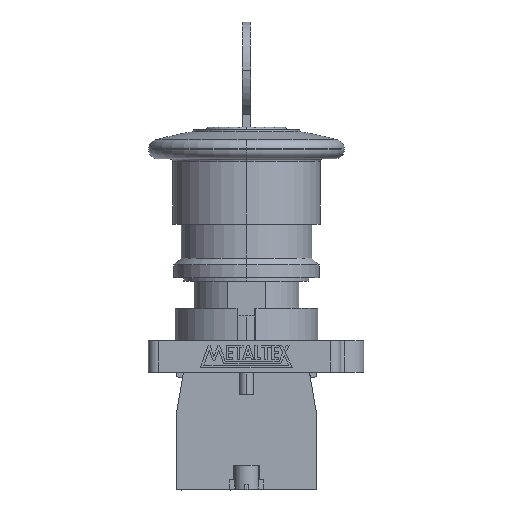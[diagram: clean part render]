
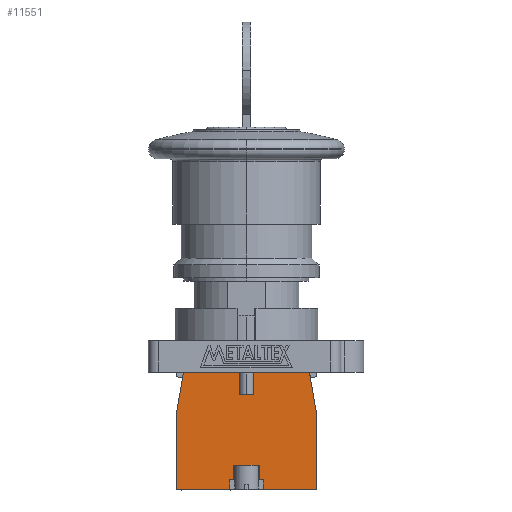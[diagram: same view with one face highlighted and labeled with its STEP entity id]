
A CAD part, top view. The second image highlights one B-rep face of the part: STEP entity #11551.
In plain terms, the highlighted planar face has unit normal (0, 0, 1).
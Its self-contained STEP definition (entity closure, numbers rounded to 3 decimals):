
#629 = VERTEX_POINT ( 'NONE', #4671 ) ;
#630 = VERTEX_POINT ( 'NONE', #4670 ) ;
#631 = VERTEX_POINT ( 'NONE', #4669 ) ;
#632 = VERTEX_POINT ( 'NONE', #4668 ) ;
#685 = VERTEX_POINT ( 'NONE', #4740 ) ;
#686 = VERTEX_POINT ( 'NONE', #4739 ) ;
#689 = VERTEX_POINT ( 'NONE', #4741 ) ;
#1391 = ORIENTED_EDGE ( 'NONE', *, *, #10989, .T. ) ;
#1526 = VERTEX_POINT ( 'NONE', #4795 ) ;
#1548 = ORIENTED_EDGE ( 'NONE', *, *, #12040, .T. ) ;
#1549 = ORIENTED_EDGE ( 'NONE', *, *, #11972, .T. ) ;
#1550 = ORIENTED_EDGE ( 'NONE', *, *, #11917, .T. ) ;
#1551 = ORIENTED_EDGE ( 'NONE', *, *, #11178, .T. ) ;
#1552 = ORIENTED_EDGE ( 'NONE', *, *, #11181, .T. ) ;
#1553 = ORIENTED_EDGE ( 'NONE', *, *, #11955, .F. ) ;
#1554 = ORIENTED_EDGE ( 'NONE', *, *, #11180, .T. ) ;
#1555 = ORIENTED_EDGE ( 'NONE', *, *, #11173, .T. ) ;
#1556 = ORIENTED_EDGE ( 'NONE', *, *, #11177, .F. ) ;
#1557 = ORIENTED_EDGE ( 'NONE', *, *, #11174, .F. ) ;
#1559 = ORIENTED_EDGE ( 'NONE', *, *, #11176, .F. ) ;
#1560 = ORIENTED_EDGE ( 'NONE', *, *, #11182, .T. ) ;
#1561 = ORIENTED_EDGE ( 'NONE', *, *, #11921, .T. ) ;
#1562 = ORIENTED_EDGE ( 'NONE', *, *, #11172, .T. ) ;
#1563 = ORIENTED_EDGE ( 'NONE', *, *, #11826, .T. ) ;
#1564 = ORIENTED_EDGE ( 'NONE', *, *, #12037, .T. ) ;
#1604 = EDGE_LOOP ( 'NONE', ( #1560, #1550, #1391, #1549, #1548, #1552, #1554, #1551, #1553, #1556, #1555, #1557, #1564, #1562, #1563, #1561, #1559, #1615 ) ) ;
#1615 = ORIENTED_EDGE ( 'NONE', *, *, #11965, .T. ) ;
#1750 = VERTEX_POINT ( 'NONE', #4794 ) ;
#1756 = VERTEX_POINT ( 'NONE', #4778 ) ;
#1759 = VERTEX_POINT ( 'NONE', #4765 ) ;
#1764 = VERTEX_POINT ( 'NONE', #4790 ) ;
#2129 = VERTEX_POINT ( 'NONE', #4179 ) ;
#2166 = VERTEX_POINT ( 'NONE', #4140 ) ;
#2389 = VERTEX_POINT ( 'NONE', #4080 ) ;
#2394 = VERTEX_POINT ( 'NONE', #4078 ) ;
#2399 = VERTEX_POINT ( 'NONE', #4070 ) ;
#2453 = VERTEX_POINT ( 'NONE', #4545 ) ;
#3613 = CARTESIAN_POINT ( 'NONE',  ( 14.5, 15.5, 7.45 ) ) ;
#3614 = LINE ( 'NONE', #3613, #12250 ) ;
#3615 = DIRECTION ( 'NONE',  ( -0.17, 0.985, 0. ) ) ;
#3701 = VECTOR ( 'NONE', #9013, 1000. ) ;
#4070 = CARTESIAN_POINT ( 'NONE',  ( -14.5, 15.5, 7.45 ) ) ;
#4078 = CARTESIAN_POINT ( 'NONE',  ( -14.5, 0., 7.45 ) ) ;
#4080 = CARTESIAN_POINT ( 'NONE',  ( -1.5, 19.6, 7.45 ) ) ;
#4140 = CARTESIAN_POINT ( 'NONE',  ( -2.6, 5., 7.45 ) ) ;
#4179 = CARTESIAN_POINT ( 'NONE',  ( 2.6, 5., 7.45 ) ) ;
#4545 = CARTESIAN_POINT ( 'NONE',  ( 1.5, 19.6, 7.45 ) ) ;
#4668 = CARTESIAN_POINT ( 'NONE',  ( 3.5, 2., 7.45 ) ) ;
#4669 = CARTESIAN_POINT ( 'NONE',  ( 2.6, 2., 7.45 ) ) ;
#4670 = CARTESIAN_POINT ( 'NONE',  ( -2.6, 2., 7.45 ) ) ;
#4671 = CARTESIAN_POINT ( 'NONE',  ( -3.5, 2., 7.45 ) ) ;
#4739 = CARTESIAN_POINT ( 'NONE',  ( 14.5, 0., 7.45 ) ) ;
#4740 = CARTESIAN_POINT ( 'NONE',  ( 3.5, 0., 7.45 ) ) ;
#4741 = CARTESIAN_POINT ( 'NONE',  ( -3.5, 0., 7.45 ) ) ;
#4765 = CARTESIAN_POINT ( 'NONE',  ( 1.5, 24.2, 7.45 ) ) ;
#4778 = CARTESIAN_POINT ( 'NONE',  ( -1.5, 24.2, 7.45 ) ) ;
#4790 = CARTESIAN_POINT ( 'NONE',  ( 13., 24.2, 7.45 ) ) ;
#4794 = CARTESIAN_POINT ( 'NONE',  ( 14.5, 15.5, 7.45 ) ) ;
#4795 = CARTESIAN_POINT ( 'NONE',  ( -13., 24.2, 7.45 ) ) ;
#5733 = LINE ( 'NONE', #5734, #12097 ) ;
#5734 = CARTESIAN_POINT ( 'NONE',  ( -14.5, 0., 7.45 ) ) ;
#5735 = DIRECTION ( 'NONE',  ( 1., 0., 0. ) ) ;
#5749 = DIRECTION ( 'NONE',  ( 1., 0., 0. ) ) ;
#5751 = LINE ( 'NONE', #5753, #12366 ) ;
#5753 = CARTESIAN_POINT ( 'NONE',  ( -14.5, 0., 7.45 ) ) ;
#6091 = DIRECTION ( 'NONE',  ( -1., 0., 0. ) ) ;
#6093 = CARTESIAN_POINT ( 'NONE',  ( 13., 24.2, 7.45 ) ) ;
#6095 = LINE ( 'NONE', #6093, #12490 ) ;
#6105 = DIRECTION ( 'NONE',  ( -1., 0., 0. ) ) ;
#6106 = CARTESIAN_POINT ( 'NONE',  ( 13., 24.2, 7.45 ) ) ;
#6107 = LINE ( 'NONE', #6106, #12485 ) ;
#6178 = CARTESIAN_POINT ( 'NONE',  ( -14.5, 15.5, 7.45 ) ) ;
#6188 = DIRECTION ( 'NONE',  ( 0., -1., 0. ) ) ;
#6190 = LINE ( 'NONE', #6178, #12294 ) ;
#6209 = DIRECTION ( 'NONE',  ( -1., 0., 0. ) ) ;
#6210 = CARTESIAN_POINT ( 'NONE',  ( 0., 19.6, 7.45 ) ) ;
#6211 = LINE ( 'NONE', #6210, #12287 ) ;
#6235 = CARTESIAN_POINT ( 'NONE',  ( 0., 5., 7.45 ) ) ;
#6297 = LINE ( 'NONE', #6235, #12605 ) ;
#6301 = DIRECTION ( 'NONE',  ( -1., 0., 0. ) ) ;
#7148 = VECTOR ( 'NONE', #10276, 1000. ) ;
#7150 = VECTOR ( 'NONE', #10169, 1000. ) ;
#7151 = VECTOR ( 'NONE', #10280, 1000. ) ;
#7152 = VECTOR ( 'NONE', #10283, 1000. ) ;
#7153 = VECTOR ( 'NONE', #10390, 1000. ) ;
#7154 = VECTOR ( 'NONE', #10238, 1000. ) ;
#7156 = VECTOR ( 'NONE', #10159, 1000. ) ;
#7157 = VECTOR ( 'NONE', #10319, 1000. ) ;
#7158 = VECTOR ( 'NONE', #7721, 1000. ) ;
#7484 = CARTESIAN_POINT ( 'NONE',  ( 14.5, 0., 7.45 ) ) ;
#7541 = CARTESIAN_POINT ( 'NONE',  ( 0., 2., 7.45 ) ) ;
#7546 = LINE ( 'NONE', #7541, #7157 ) ;
#7721 = DIRECTION ( 'NONE',  ( 0., 1., 0. ) ) ;
#7733 = LINE ( 'NONE', #7484, #7158 ) ;
#7897 = DIRECTION ( 'NONE',  ( 0., 0., 1. ) ) ;
#7904 = CARTESIAN_POINT ( 'NONE',  ( 0., 0., 7.45 ) ) ;
#7906 = PLANE ( 'NONE',  #12625 ) ;
#7918 = DIRECTION ( 'NONE',  ( 1., 0., 0. ) ) ;
#9013 = DIRECTION ( 'NONE',  ( -0.17, -0.985, 0. ) ) ;
#9022 = CARTESIAN_POINT ( 'NONE',  ( -13., 24.2, 7.45 ) ) ;
#9023 = LINE ( 'NONE', #9022, #3701 ) ;
#10158 = LINE ( 'NONE', #10285, #7148 ) ;
#10159 = DIRECTION ( 'NONE',  ( 0., 1., 0. ) ) ;
#10165 = LINE ( 'NONE', #10175, #7152 ) ;
#10169 = DIRECTION ( 'NONE',  ( 0., 1., 0. ) ) ;
#10175 = CARTESIAN_POINT ( 'NONE',  ( -2.6, 0., 7.45 ) ) ;
#10202 = LINE ( 'NONE', #10268, #7153 ) ;
#10238 = DIRECTION ( 'NONE',  ( 0., 1., 0. ) ) ;
#10256 = CARTESIAN_POINT ( 'NONE',  ( 3.5, 0., 7.45 ) ) ;
#10261 = CARTESIAN_POINT ( 'NONE',  ( 1.5, 19.6, 7.45 ) ) ;
#10268 = CARTESIAN_POINT ( 'NONE',  ( 2.6, 0., 7.45 ) ) ;
#10273 = LINE ( 'NONE', #10256, #7156 ) ;
#10276 = DIRECTION ( 'NONE',  ( 0., 1., 0. ) ) ;
#10280 = DIRECTION ( 'NONE',  ( 1., 0., 0. ) ) ;
#10283 = DIRECTION ( 'NONE',  ( 0., 1., 0. ) ) ;
#10285 = CARTESIAN_POINT ( 'NONE',  ( -1.5, 19.6, 7.45 ) ) ;
#10290 = CARTESIAN_POINT ( 'NONE',  ( -3.5, 0., 7.45 ) ) ;
#10319 = DIRECTION ( 'NONE',  ( 1., 0., 0. ) ) ;
#10324 = LINE ( 'NONE', #10331, #7151 ) ;
#10328 = LINE ( 'NONE', #10261, #7154 ) ;
#10331 = CARTESIAN_POINT ( 'NONE',  ( 0., 2., 7.45 ) ) ;
#10332 = LINE ( 'NONE', #10290, #7150 ) ;
#10390 = DIRECTION ( 'NONE',  ( 0., 1., 0. ) ) ;
#10989 = EDGE_CURVE ( 'NONE', #1526, #2399, #9023, .T. ) ;
#11172 = EDGE_CURVE ( 'NONE', #686, #1750, #7733, .T. ) ;
#11173 = EDGE_CURVE ( 'NONE', #631, #632, #7546, .T. ) ;
#11174 = EDGE_CURVE ( 'NONE', #685, #632, #10273, .T. ) ;
#11176 = EDGE_CURVE ( 'NONE', #2453, #1759, #10328, .T. ) ;
#11177 = EDGE_CURVE ( 'NONE', #631, #2129, #10202, .T. ) ;
#11178 = EDGE_CURVE ( 'NONE', #630, #2166, #10165, .T. ) ;
#11180 = EDGE_CURVE ( 'NONE', #629, #630, #10324, .T. ) ;
#11181 = EDGE_CURVE ( 'NONE', #689, #629, #10332, .T. ) ;
#11182 = EDGE_CURVE ( 'NONE', #2389, #1756, #10158, .T. ) ;
#11551 = ADVANCED_FACE ( 'NONE', ( #12803 ), #7906, .T. ) ;
#11826 = EDGE_CURVE ( 'NONE', #1750, #1764, #3614, .T. ) ;
#11917 = EDGE_CURVE ( 'NONE', #1756, #1526, #6107, .T. ) ;
#11921 = EDGE_CURVE ( 'NONE', #1764, #1759, #6095, .T. ) ;
#11955 = EDGE_CURVE ( 'NONE', #2129, #2166, #6297, .T. ) ;
#11965 = EDGE_CURVE ( 'NONE', #2453, #2389, #6211, .T. ) ;
#11972 = EDGE_CURVE ( 'NONE', #2399, #2394, #6190, .T. ) ;
#12037 = EDGE_CURVE ( 'NONE', #685, #686, #5733, .T. ) ;
#12040 = EDGE_CURVE ( 'NONE', #2394, #689, #5751, .T. ) ;
#12097 = VECTOR ( 'NONE', #5735, 1000. ) ;
#12250 = VECTOR ( 'NONE', #3615, 1000. ) ;
#12287 = VECTOR ( 'NONE', #6209, 1000. ) ;
#12294 = VECTOR ( 'NONE', #6188, 1000. ) ;
#12366 = VECTOR ( 'NONE', #5749, 1000. ) ;
#12485 = VECTOR ( 'NONE', #6105, 1000. ) ;
#12490 = VECTOR ( 'NONE', #6091, 1000. ) ;
#12605 = VECTOR ( 'NONE', #6301, 1000. ) ;
#12625 = AXIS2_PLACEMENT_3D ( 'NONE', #7904, #7897, #7918 ) ;
#12803 = FACE_OUTER_BOUND ( 'NONE', #1604, .T. ) ;
